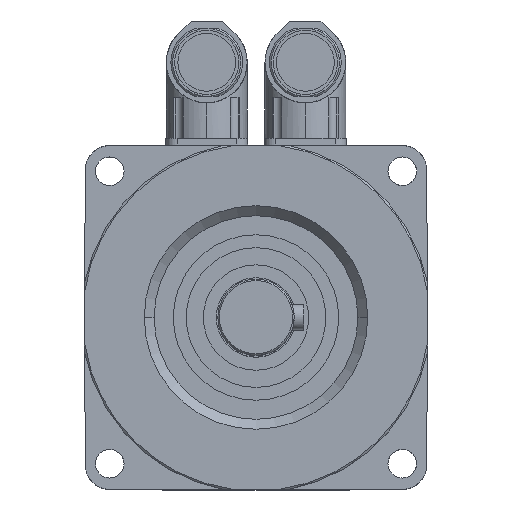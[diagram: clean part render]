
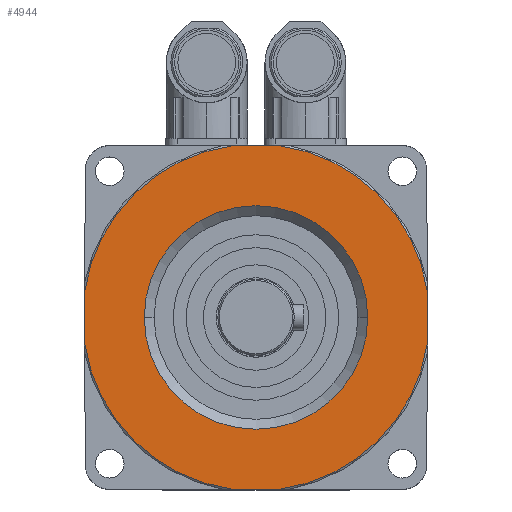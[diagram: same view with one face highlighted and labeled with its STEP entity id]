
A CAD part, top view. The second image highlights one B-rep face of the part: STEP entity #4944.
In plain terms, the highlighted planar face has unit normal (0, 0, 1).
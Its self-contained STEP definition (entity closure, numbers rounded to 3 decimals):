
#4842 = EDGE_CURVE ( 'NONE', #5097, #4843, #21985, .T. ) ;
#4843 = VERTEX_POINT ( 'NONE', #21981 ) ;
#4855 = ORIENTED_EDGE ( 'NONE', *, *, #4856, .T. ) ;
#4856 = EDGE_CURVE ( 'NONE', #4843, #4857, #21869, .T. ) ;
#4857 = VERTEX_POINT ( 'NONE', #21865 ) ;
#4869 = ORIENTED_EDGE ( 'NONE', *, *, #4871, .T. ) ;
#4871 = EDGE_CURVE ( 'NONE', #4857, #4873, #21847, .T. ) ;
#4873 = VERTEX_POINT ( 'NONE', #21844 ) ;
#4875 = ORIENTED_EDGE ( 'NONE', *, *, #4876, .T. ) ;
#4876 = EDGE_CURVE ( 'NONE', #4873, #4877, #21843, .T. ) ;
#4877 = VERTEX_POINT ( 'NONE', #21838 ) ;
#4878 = ORIENTED_EDGE ( 'NONE', *, *, #4879, .T. ) ;
#4879 = EDGE_CURVE ( 'NONE', #4877, #4948, #21880, .T. ) ;
#4880 = EDGE_LOOP ( 'NONE', ( #4881, #4883 ) ) ;
#4881 = ORIENTED_EDGE ( 'NONE', *, *, #4882, .F. ) ;
#4882 = EDGE_CURVE ( 'NONE', #12017, #12014, #23021, .T. ) ;
#4883 = ORIENTED_EDGE ( 'NONE', *, *, #12016, .F. ) ;
#4944 = ADVANCED_FACE ( 'NONE', ( #22531, #22530 ), #22450, .T. ) ;
#4945 = EDGE_LOOP ( 'NONE', ( #4946, #5086, #5088, #5092, #5095, #5098, #4855, #4869, #4875, #4878 ) ) ;
#4946 = ORIENTED_EDGE ( 'NONE', *, *, #4947, .T. ) ;
#4947 = EDGE_CURVE ( 'NONE', #4948, #4949, #22448, .T. ) ;
#4948 = VERTEX_POINT ( 'NONE', #22441 ) ;
#4949 = VERTEX_POINT ( 'NONE', #22440 ) ;
#4951 = VERTEX_POINT ( 'NONE', #22439 ) ;
#5086 = ORIENTED_EDGE ( 'NONE', *, *, #5087, .T. ) ;
#5087 = EDGE_CURVE ( 'NONE', #4949, #4951, #22413, .T. ) ;
#5088 = ORIENTED_EDGE ( 'NONE', *, *, #5090, .T. ) ;
#5090 = EDGE_CURVE ( 'NONE', #4951, #5091, #22408, .T. ) ;
#5091 = VERTEX_POINT ( 'NONE', #22404 ) ;
#5092 = ORIENTED_EDGE ( 'NONE', *, *, #5093, .T. ) ;
#5093 = EDGE_CURVE ( 'NONE', #5091, #5094, #22986, .T. ) ;
#5094 = VERTEX_POINT ( 'NONE', #22983 ) ;
#5095 = ORIENTED_EDGE ( 'NONE', *, *, #5096, .T. ) ;
#5096 = EDGE_CURVE ( 'NONE', #5094, #5097, #22982, .T. ) ;
#5097 = VERTEX_POINT ( 'NONE', #22978 ) ;
#5098 = ORIENTED_EDGE ( 'NONE', *, *, #4842, .T. ) ;
#12014 = VERTEX_POINT ( 'NONE', #15954 ) ;
#12016 = EDGE_CURVE ( 'NONE', #12014, #12017, #15924, .T. ) ;
#12017 = VERTEX_POINT ( 'NONE', #15919 ) ;
#15919 = CARTESIAN_POINT ( 'NONE',  ( 35.13, 0., 1.94 ) ) ;
#15920 = DIRECTION ( 'NONE',  ( 1., 0., 0. ) ) ;
#15921 = DIRECTION ( 'NONE',  ( 0., 0., 1. ) ) ;
#15922 = CARTESIAN_POINT ( 'NONE',  ( 0., 0., 1.94 ) ) ;
#15923 = AXIS2_PLACEMENT_3D ( 'NONE', #15922, #15921, #15920 ) ;
#15924 = CIRCLE ( 'NONE', #15923, 35.13 ) ;
#15954 = CARTESIAN_POINT ( 'NONE',  ( -35.13, 0., 1.94 ) ) ;
#21838 = CARTESIAN_POINT ( 'NONE',  ( 53.913, -7.974, 1.94 ) ) ;
#21839 = DIRECTION ( 'NONE',  ( 1., 0., 0. ) ) ;
#21840 = DIRECTION ( 'NONE',  ( 0., 0., 1. ) ) ;
#21841 = CARTESIAN_POINT ( 'NONE',  ( 0., 0., 1.94 ) ) ;
#21842 = AXIS2_PLACEMENT_3D ( 'NONE', #21841, #21840, #21839 ) ;
#21843 = CIRCLE ( 'NONE', #21842, 54.5 ) ;
#21844 = CARTESIAN_POINT ( 'NONE',  ( 7.489, -53.983, 1.94 ) ) ;
#21845 = VECTOR ( 'NONE', #22031, 1000. ) ;
#21846 = CARTESIAN_POINT ( 'NONE',  ( -53.529, -53.983, 1.94 ) ) ;
#21847 = LINE ( 'NONE', #21846, #21845 ) ;
#21865 = CARTESIAN_POINT ( 'NONE',  ( -7.489, -53.983, 1.94 ) ) ;
#21866 = DIRECTION ( 'NONE',  ( 1., 0., 0. ) ) ;
#21867 = DIRECTION ( 'NONE',  ( 0., 0., 1. ) ) ;
#21868 = AXIS2_PLACEMENT_3D ( 'NONE', #21875, #21867, #21866 ) ;
#21869 = CIRCLE ( 'NONE', #21868, 54.5 ) ;
#21875 = CARTESIAN_POINT ( 'NONE',  ( 0., 0., 1.94 ) ) ;
#21877 = DIRECTION ( 'NONE',  ( 0.009, 1., 0. ) ) ;
#21878 = VECTOR ( 'NONE', #21877, 1000. ) ;
#21879 = CARTESIAN_POINT ( 'NONE',  ( 53.512, -54., 1.94 ) ) ;
#21880 = LINE ( 'NONE', #21879, #21878 ) ;
#21981 = CARTESIAN_POINT ( 'NONE',  ( -53.913, -7.974, 1.94 ) ) ;
#21982 = DIRECTION ( 'NONE',  ( 0.009, -1., 0. ) ) ;
#21983 = VECTOR ( 'NONE', #21982, 1000. ) ;
#21984 = CARTESIAN_POINT ( 'NONE',  ( -53.983, 0., 1.94 ) ) ;
#21985 = LINE ( 'NONE', #21984, #21983 ) ;
#22031 = DIRECTION ( 'NONE',  ( 1., 0., 0. ) ) ;
#22404 = CARTESIAN_POINT ( 'NONE',  ( -7.489, 53.983, 1.94 ) ) ;
#22405 = DIRECTION ( 'NONE',  ( -1., 0., 0. ) ) ;
#22406 = VECTOR ( 'NONE', #22405, 1000. ) ;
#22407 = CARTESIAN_POINT ( 'NONE',  ( 53.529, 53.983, 1.94 ) ) ;
#22408 = LINE ( 'NONE', #22407, #22406 ) ;
#22409 = DIRECTION ( 'NONE',  ( 1., 0., 0. ) ) ;
#22410 = DIRECTION ( 'NONE',  ( 0., 0., 1. ) ) ;
#22411 = CARTESIAN_POINT ( 'NONE',  ( 0., 0., 1.94 ) ) ;
#22412 = AXIS2_PLACEMENT_3D ( 'NONE', #22411, #22410, #22409 ) ;
#22413 = CIRCLE ( 'NONE', #22412, 54.5 ) ;
#22439 = CARTESIAN_POINT ( 'NONE',  ( 7.489, 53.983, 1.94 ) ) ;
#22440 = CARTESIAN_POINT ( 'NONE',  ( 53.913, 7.974, 1.94 ) ) ;
#22441 = CARTESIAN_POINT ( 'NONE',  ( 53.983, 0., 1.94 ) ) ;
#22442 = DIRECTION ( 'NONE',  ( -0.009, 1., 0. ) ) ;
#22443 = VECTOR ( 'NONE', #22442, 1000. ) ;
#22444 = CARTESIAN_POINT ( 'NONE',  ( 53.983, 0., 1.94 ) ) ;
#22445 = DIRECTION ( 'NONE',  ( 1., 0., 0. ) ) ;
#22446 = DIRECTION ( 'NONE',  ( 0., 0., 1. ) ) ;
#22447 = CARTESIAN_POINT ( 'NONE',  ( 0., 26.182, 1.94 ) ) ;
#22448 = LINE ( 'NONE', #22444, #22443 ) ;
#22449 = AXIS2_PLACEMENT_3D ( 'NONE', #22447, #22446, #22445 ) ;
#22450 = PLANE ( 'NONE',  #22449 ) ;
#22530 = FACE_BOUND ( 'NONE', #4880, .T. ) ;
#22531 = FACE_OUTER_BOUND ( 'NONE', #4945, .T. ) ;
#22978 = CARTESIAN_POINT ( 'NONE',  ( -53.983, 0., 1.94 ) ) ;
#22979 = DIRECTION ( 'NONE',  ( -0.009, -1., 0. ) ) ;
#22980 = VECTOR ( 'NONE', #22979, 1000. ) ;
#22981 = CARTESIAN_POINT ( 'NONE',  ( -53.512, 54., 1.94 ) ) ;
#22982 = LINE ( 'NONE', #22981, #22980 ) ;
#22983 = CARTESIAN_POINT ( 'NONE',  ( -53.913, 7.974, 1.94 ) ) ;
#22984 = DIRECTION ( 'NONE',  ( 1., 0., 0. ) ) ;
#22986 = CIRCLE ( 'NONE', #23058, 54.5 ) ;
#23021 = CIRCLE ( 'NONE', #23063, 35.13 ) ;
#23022 = CARTESIAN_POINT ( 'NONE',  ( 0., 0., 1.94 ) ) ;
#23056 = DIRECTION ( 'NONE',  ( 0., 0., 1. ) ) ;
#23057 = CARTESIAN_POINT ( 'NONE',  ( 0., 0., 1.94 ) ) ;
#23058 = AXIS2_PLACEMENT_3D ( 'NONE', #23057, #23056, #22984 ) ;
#23061 = DIRECTION ( 'NONE',  ( 1., 0., 0. ) ) ;
#23062 = DIRECTION ( 'NONE',  ( 0., 0., 1. ) ) ;
#23063 = AXIS2_PLACEMENT_3D ( 'NONE', #23022, #23062, #23061 ) ;
